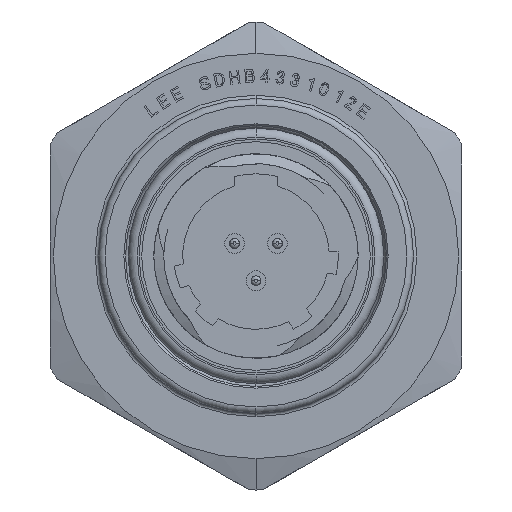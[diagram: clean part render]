
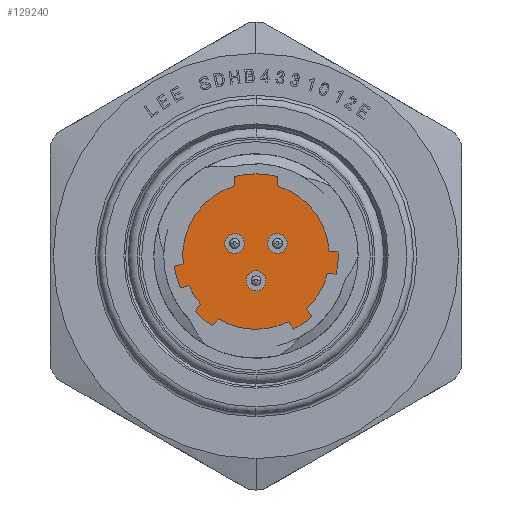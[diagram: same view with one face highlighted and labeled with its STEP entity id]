
A CAD part, left-side view. The second image highlights one B-rep face of the part: STEP entity #129240.
In plain terms, the highlighted planar face has unit normal (-1, 0, 0).
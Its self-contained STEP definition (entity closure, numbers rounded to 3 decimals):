
#55230=CARTESIAN_POINT('',(-54.036,10.059,
0.));
#55240=DIRECTION('',(1.,0.,0.));
#55250=DIRECTION('',(0.,0.,1.));
#55260=AXIS2_PLACEMENT_3D('',#55230,#55240,#55250);
#55270=CIRCLE('',#55260,5.652);
#55280=CARTESIAN_POINT('',(-54.036,4.989,
2.496));
#55290=VERTEX_POINT('',#55280);
#55300=CARTESIAN_POINT('',(-54.036,5.226,
-2.928));
#55310=VERTEX_POINT('',#55300);
#55320=EDGE_CURVE('',#55290,#55310,#55270,.T.);
#123860=CARTESIAN_POINT('',(-54.036,6.336,
-4.252));
#123870=VERTEX_POINT('',#123860);
#123880=CARTESIAN_POINT('',(-54.036,7.78,
-5.171));
#123890=VERTEX_POINT('',#123880);
#123900=EDGE_CURVE('',#123870,#123890,#55270,.T.);
#124170=CARTESIAN_POINT('',(-54.036,9.269,
-6.288));
#124180=VERTEX_POINT('',#124170);
#124210=CARTESIAN_POINT('',(-54.036,10.059,
0.));
#124220=DIRECTION('',(-1.,0.,0.));
#124230=DIRECTION('',(0.,0.,1.));
#124240=AXIS2_PLACEMENT_3D('',#124210,#124220,#124230);
#124250=CIRCLE('',#124240,6.337);
#124260=CARTESIAN_POINT('',(-54.036,7.6,
-5.841));
#124270=VERTEX_POINT('',#124260);
#124280=EDGE_CURVE('',#124180,#124270,#124250,.T.);
#125670=CARTESIAN_POINT('',(-54.036,5.98,
3.911));
#125680=VERTEX_POINT('',#125670);
#125710=CARTESIAN_POINT('',(-54.036,8.712,
5.489));
#125720=VERTEX_POINT('',#125710);
#125730=EDGE_CURVE('',#125720,#125680,#55270,.T.);
#127220=CARTESIAN_POINT('',(-54.036,16.178,1.651));
#127230=VERTEX_POINT('',#127220);
#127260=CARTESIAN_POINT('',(-54.036,10.059,
0.));
#127270=DIRECTION('',(-1.,0.,0.));
#127280=DIRECTION('',(0.,0.,1.));
#127290=AXIS2_PLACEMENT_3D('',#127260,#127270,#127280);
#127300=CIRCLE('',#127290,6.337);
#127310=CARTESIAN_POINT('',(-54.036,16.178,
-1.651));
#127320=VERTEX_POINT('',#127310);
#127330=EDGE_CURVE('',#127230,#127320,#127300,.T.);
#127510=CARTESIAN_POINT('',(-54.036,16.178,-1.651));
#127520=DIRECTION('',(0.,-1.,0.));
#127530=VECTOR('',#127520,1.);
#127540=LINE('',#127510,#127530);
#127550=CARTESIAN_POINT('',(-54.036,15.464,-1.651));
#127560=VERTEX_POINT('',#127550);
#127570=EDGE_CURVE('',#127320,#127560,#127540,.T.);
#127690=CARTESIAN_POINT('',(-54.036,10.059,2.826))
;
#127700=DIRECTION('',(1.,0.,-0.));
#127710=DIRECTION('',(0.,0.,1.));
#127720=AXIS2_PLACEMENT_3D('',#127690,#127700,#127710);
#127730=PLANE('',#127720);
#127740=CARTESIAN_POINT('',(-54.036,11.025,-1.651));
#127750=DIRECTION('',(-1.,0.,0.));
#127760=DIRECTION('',(0.,0.,1.));
#127770=AXIS2_PLACEMENT_3D('',#127740,#127750,#127760);
#127780=CIRCLE('',#127770,0.762);
#127790=CARTESIAN_POINT('',(-54.036,11.025,
-0.889));
#127800=VERTEX_POINT('',#127790);
#127810=CARTESIAN_POINT('',(-54.036,11.025,
-2.413));
#127820=VERTEX_POINT('',#127810);
#127830=EDGE_CURVE('',#127800,#127820,#127780,.T.);
#127840=ORIENTED_EDGE('',*,*,#127830,.F.);
#127850=EDGE_CURVE('',#127820,#127800,#127780,.T.);
#127860=ORIENTED_EDGE('',*,*,#127850,.F.);
#127870=EDGE_LOOP('',(#127860,#127840));
#127880=FACE_BOUND('',#127870,.T.);
#127890=CARTESIAN_POINT('',(-54.036,11.025,1.651));
#127900=DIRECTION('',(-1.,0.,0.));
#127910=DIRECTION('',(0.,0.,1.));
#127920=AXIS2_PLACEMENT_3D('',#127890,#127900,#127910);
#127930=CIRCLE('',#127920,0.762);
#127940=CARTESIAN_POINT('',(-54.036,11.025,
2.413));
#127950=VERTEX_POINT('',#127940);
#127960=CARTESIAN_POINT('',(-54.036,11.025,
0.889));
#127970=VERTEX_POINT('',#127960);
#127980=EDGE_CURVE('',#127950,#127970,#127930,.T.);
#127990=ORIENTED_EDGE('',*,*,#127980,.F.);
#128000=EDGE_CURVE('',#127970,#127950,#127930,.T.);
#128010=ORIENTED_EDGE('',*,*,#128000,.F.);
#128020=EDGE_LOOP('',(#128010,#127990));
#128030=FACE_BOUND('',#128020,.T.);
#128040=CARTESIAN_POINT('',(-54.036,8.154,
0.));
#128050=DIRECTION('',(-1.,0.,0.));
#128060=DIRECTION('',(0.,0.,1.));
#128070=AXIS2_PLACEMENT_3D('',#128040,#128050,#128060);
#128080=CIRCLE('',#128070,0.762);
#128090=CARTESIAN_POINT('',(-54.036,8.154,
0.762));
#128100=VERTEX_POINT('',#128090);
#128110=CARTESIAN_POINT('',(-54.036,8.154,
-0.762));
#128120=VERTEX_POINT('',#128110);
#128130=EDGE_CURVE('',#128100,#128120,#128080,.T.);
#128140=ORIENTED_EDGE('',*,*,#128130,.F.);
#128150=EDGE_CURVE('',#128120,#128100,#128080,.T.);
#128160=ORIENTED_EDGE('',*,*,#128150,.F.);
#128170=EDGE_LOOP('',(#128160,#128140));
#128180=FACE_BOUND('',#128170,.T.);
#128190=ORIENTED_EDGE('',*,*,#125730,.F.);
#128200=CARTESIAN_POINT('',(-54.036,5.98,
3.911));
#128210=DIRECTION('',(0.,-0.819,0.574));
#128220=VECTOR('',#128210,1.);
#128230=LINE('',#128200,#128220);
#128240=CARTESIAN_POINT('',(-54.036,5.412,
4.308));
#128250=VERTEX_POINT('',#128240);
#128260=EDGE_CURVE('',#125680,#128250,#128230,.T.);
#128270=ORIENTED_EDGE('',*,*,#128260,.F.);
#128280=CARTESIAN_POINT('',(-54.036,10.059,
0.));
#128290=DIRECTION('',(-1.,0.,0.));
#128300=DIRECTION('',(0.,0.,1.));
#128310=AXIS2_PLACEMENT_3D('',#128280,#128290,#128300);
#128320=CIRCLE('',#128310,6.337);
#128330=CARTESIAN_POINT('',(-54.036,4.421,
2.894));
#128340=VERTEX_POINT('',#128330);
#128350=EDGE_CURVE('',#128340,#128250,#128320,.T.);
#128360=ORIENTED_EDGE('',*,*,#128350,.T.);
#128370=CARTESIAN_POINT('',(-54.036,4.989,
2.496));
#128380=DIRECTION('',(0.,-0.819,0.574));
#128390=VECTOR('',#128380,1.);
#128400=LINE('',#128370,#128390);
#128410=EDGE_CURVE('',#55290,#128340,#128400,.T.);
#128420=ORIENTED_EDGE('',*,*,#128410,.T.);
#128430=ORIENTED_EDGE('',*,*,#55320,.F.);
#128440=CARTESIAN_POINT('',(-54.036,5.226,
-2.928));
#128450=DIRECTION('',(0.,-0.766,-0.643));
#128460=VECTOR('',#128450,1.);
#128470=LINE('',#128440,#128460);
#128480=CARTESIAN_POINT('',(-54.036,4.695,
-3.374));
#128490=VERTEX_POINT('',#128480);
#128500=EDGE_CURVE('',#55310,#128490,#128470,.T.);
#128510=ORIENTED_EDGE('',*,*,#128500,.F.);
#128520=CARTESIAN_POINT('',(-54.036,10.059,
0.));
#128530=DIRECTION('',(-1.,0.,0.));
#128540=DIRECTION('',(0.,0.,1.));
#128550=AXIS2_PLACEMENT_3D('',#128520,#128530,#128540);
#128560=CIRCLE('',#128550,6.337);
#128570=CARTESIAN_POINT('',(-54.036,5.805,
-4.697));
#128580=VERTEX_POINT('',#128570);
#128590=EDGE_CURVE('',#128580,#128490,#128560,.T.);
#128600=ORIENTED_EDGE('',*,*,#128590,.T.);
#128610=CARTESIAN_POINT('',(-54.036,6.336,
-4.252));
#128620=DIRECTION('',(0.,-0.766,-0.643));
#128630=VECTOR('',#128620,1.);
#128640=LINE('',#128610,#128630);
#128650=EDGE_CURVE('',#123870,#128580,#128640,.T.);
#128660=ORIENTED_EDGE('',*,*,#128650,.T.);
#128670=ORIENTED_EDGE('',*,*,#123900,.F.);
#128680=CARTESIAN_POINT('',(-54.036,7.78,
-5.171));
#128690=DIRECTION('',(0.,-0.259,-0.966));
#128700=VECTOR('',#128690,1.);
#128710=LINE('',#128680,#128700);
#128720=EDGE_CURVE('',#123890,#124270,#128710,.T.);
#128730=ORIENTED_EDGE('',*,*,#128720,.F.);
#128740=ORIENTED_EDGE('',*,*,#124280,.T.);
#128750=CARTESIAN_POINT('',(-54.036,9.448,
-5.618));
#128760=DIRECTION('',(0.,-0.259,-0.966));
#128770=VECTOR('',#128760,1.);
#128780=LINE('',#128750,#128770);
#128790=CARTESIAN_POINT('',(-54.036,9.448,
-5.618));
#128800=VERTEX_POINT('',#128790);
#128810=EDGE_CURVE('',#128800,#124180,#128780,.T.);
#128820=ORIENTED_EDGE('',*,*,#128810,.T.);
#128830=EDGE_CURVE('',#128800,#127560,#55270,.T.);
#128840=ORIENTED_EDGE('',*,*,#128830,.F.);
#128850=ORIENTED_EDGE('',*,*,#127570,.T.);
#128860=ORIENTED_EDGE('',*,*,#127330,.T.);
#128870=CARTESIAN_POINT('',(-54.036,16.178,1.651));
#128880=DIRECTION('',(0.,-1.,0.));
#128890=VECTOR('',#128880,1.);
#128900=LINE('',#128870,#128890);
#128910=CARTESIAN_POINT('',(-54.036,15.464,1.651));
#128920=VERTEX_POINT('',#128910);
#128930=EDGE_CURVE('',#127230,#128920,#128900,.T.);
#128940=ORIENTED_EDGE('',*,*,#128930,.F.);
#128950=CARTESIAN_POINT('',(-54.036,10.433,
5.639));
#128960=VERTEX_POINT('',#128950);
#128970=EDGE_CURVE('',#128920,#128960,#55270,.T.);
#128980=ORIENTED_EDGE('',*,*,#128970,.F.);
#128990=CARTESIAN_POINT('',(-54.036,10.433,
5.639));
#129000=DIRECTION('',(0.,-0.087,0.996));
#129010=VECTOR('',#129000,1.);
#129020=LINE('',#128990,#129010);
#129030=CARTESIAN_POINT('',(-54.036,10.372,
6.33));
#129040=VERTEX_POINT('',#129030);
#129050=EDGE_CURVE('',#128960,#129040,#129020,.T.);
#129060=ORIENTED_EDGE('',*,*,#129050,.F.);
#129070=CARTESIAN_POINT('',(-54.036,10.059,
0.));
#129080=DIRECTION('',(-1.,0.,0.));
#129090=DIRECTION('',(0.,0.,1.));
#129100=AXIS2_PLACEMENT_3D('',#129070,#129080,#129090);
#129110=CIRCLE('',#129100,6.337);
#129120=CARTESIAN_POINT('',(-54.036,8.652,
6.179));
#129130=VERTEX_POINT('',#129120);
#129140=EDGE_CURVE('',#129130,#129040,#129110,.T.);
#129150=ORIENTED_EDGE('',*,*,#129140,.T.);
#129160=CARTESIAN_POINT('',(-54.036,8.712,
5.489));
#129170=DIRECTION('',(0.,-0.087,0.996));
#129180=VECTOR('',#129170,1.);
#129190=LINE('',#129160,#129180);
#129200=EDGE_CURVE('',#125720,#129130,#129190,.T.);
#129210=ORIENTED_EDGE('',*,*,#129200,.T.);
#129220=EDGE_LOOP('',(#129210,#129150,#129060,#128980,#128940,#128860,
#128850,#128840,#128820,#128740,#128730,#128670,#128660,#128600,#128510,
#128430,#128420,#128360,#128270,#128190));
#129230=FACE_OUTER_BOUND('',#129220,.T.);
#129240=ADVANCED_FACE('',(#127880,#128030,#128180,#129230),#127730,.F.);
